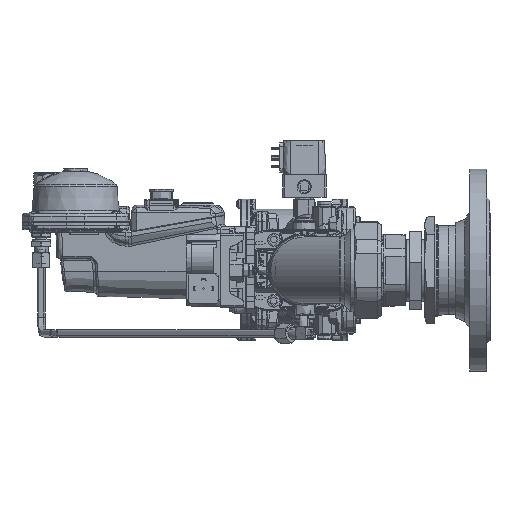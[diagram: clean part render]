
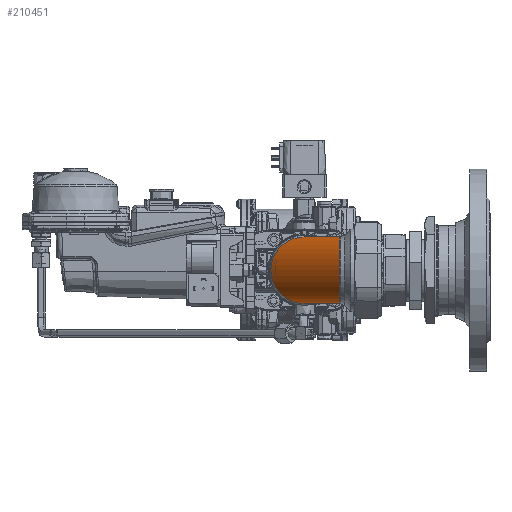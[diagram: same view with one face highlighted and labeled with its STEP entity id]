
A CAD part, left-side view. The second image highlights one B-rep face of the part: STEP entity #210451.
In plain terms, the highlighted toroidal (fillet/blend) face has major radius 35 mm and minor radius 33 mm.
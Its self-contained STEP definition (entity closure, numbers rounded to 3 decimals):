
#1334 = EDGE_CURVE ( 'NONE', #387837, #44739, #453580, .T. ) ;
#5522 = CARTESIAN_POINT ( 'NONE',  ( 0., 41., 0. ) ) ;
#27479 = CARTESIAN_POINT ( 'NONE',  ( 33., 41., 0. ) ) ;
#29886 = DIRECTION ( 'NONE',  ( 0., 1., 0. ) ) ;
#40866 = DIRECTION ( 'NONE',  ( -1., 0., 0. ) ) ;
#44739 = VERTEX_POINT ( 'NONE', #293129 ) ;
#53791 = AXIS2_PLACEMENT_3D ( 'NONE', #5522, #251615, #40866 ) ;
#59541 = AXIS2_PLACEMENT_3D ( 'NONE', #310921, #100133, #346211 ) ;
#100133 = DIRECTION ( 'NONE',  ( -1., 0., 0. ) ) ;
#110635 = ORIENTED_EDGE ( 'NONE', *, *, #128096, .T. ) ;
#115268 = EDGE_LOOP ( 'NONE', ( #436174, #134791 ) ) ;
#126104 = VERTEX_POINT ( 'NONE', #356114 ) ;
#128096 = EDGE_CURVE ( 'NONE', #362890, #126104, #133075, .T. ) ;
#133075 = CIRCLE ( 'NONE', #53791, 33. ) ;
#134791 = ORIENTED_EDGE ( 'NONE', *, *, #202703, .T. ) ;
#145564 = CARTESIAN_POINT ( 'NONE',  ( 35., 76., 0. ) ) ;
#162475 = CIRCLE ( 'NONE', #206128, 33. ) ;
#164129 = CARTESIAN_POINT ( 'NONE',  ( 35., 43., 0. ) ) ;
#180926 = DIRECTION ( 'NONE',  ( 0., -1., 0. ) ) ;
#202703 = EDGE_CURVE ( 'NONE', #44739, #387837, #162475, .T. ) ;
#206128 = AXIS2_PLACEMENT_3D ( 'NONE', #145564, #391700, #180926 ) ;
#210451 = ADVANCED_FACE ( 'NONE', ( #353439, #436139 ), #342429, .T. ) ;
#240533 = CARTESIAN_POINT ( 'NONE',  ( 0., 41., 0. ) ) ;
#251615 = DIRECTION ( 'NONE',  ( 0., 1., 0. ) ) ;
#253610 = CARTESIAN_POINT ( 'NONE',  ( 35., 41., 0. ) ) ;
#275942 = DIRECTION ( 'NONE',  ( -1., 0., 0. ) ) ;
#293129 = CARTESIAN_POINT ( 'NONE',  ( 35., 109., 0. ) ) ;
#310921 = CARTESIAN_POINT ( 'NONE',  ( 35., 76., 0. ) ) ;
#313304 = CIRCLE ( 'NONE', #426003, 33. ) ;
#324221 = DIRECTION ( 'NONE',  ( 0., 0., 1. ) ) ;
#342429 = TOROIDAL_SURFACE ( 'NONE', #402983, 35., 33. ) ;
#346211 = DIRECTION ( 'NONE',  ( 0., -1., 0. ) ) ;
#347005 = ORIENTED_EDGE ( 'NONE', *, *, #353058, .T. ) ;
#353058 = EDGE_CURVE ( 'NONE', #126104, #362890, #313304, .T. ) ;
#353439 = FACE_OUTER_BOUND ( 'NONE', #115268, .T. ) ;
#356114 = CARTESIAN_POINT ( 'NONE',  ( -33., 41., 0. ) ) ;
#362890 = VERTEX_POINT ( 'NONE', #27479 ) ;
#387837 = VERTEX_POINT ( 'NONE', #164129 ) ;
#388277 = EDGE_LOOP ( 'NONE', ( #347005, #110635 ) ) ;
#391700 = DIRECTION ( 'NONE',  ( -1., 0., 0. ) ) ;
#395050 = DIRECTION ( 'NONE',  ( 0., -1., 0. ) ) ;
#402983 = AXIS2_PLACEMENT_3D ( 'NONE', #253610, #324221, #395050 ) ;
#426003 = AXIS2_PLACEMENT_3D ( 'NONE', #240533, #29886, #275942 ) ;
#436139 = FACE_OUTER_BOUND ( 'NONE', #388277, .T. ) ;
#436174 = ORIENTED_EDGE ( 'NONE', *, *, #1334, .T. ) ;
#453580 = CIRCLE ( 'NONE', #59541, 33. ) ;
